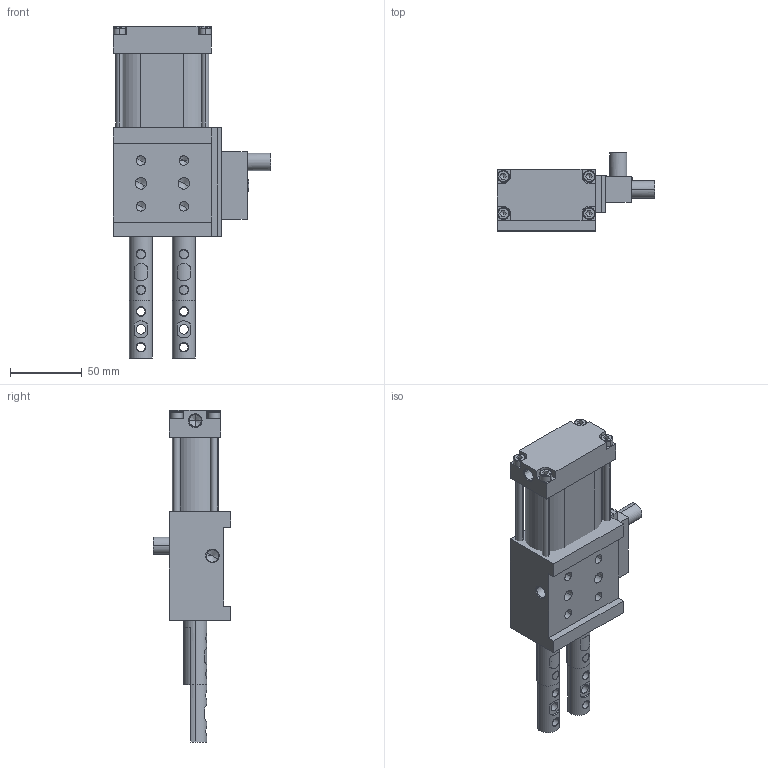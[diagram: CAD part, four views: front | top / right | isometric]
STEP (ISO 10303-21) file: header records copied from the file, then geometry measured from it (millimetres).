
FILE_DESCRIPTION(('CATIA V5 STEP Exchange'),'2;1');
FILE_NAME('C:\Dokumente und Einstellungen\huberm\Eigene Dateien\SZKD_40_5_A18_T12_TUENKERS.stp','2011-05-16T13:13:39+00:00',('none'),('none'),'CATIA Version 5 Release 19 SP 3 (IN-10)','CATIA V5 STEP AP203','none');
FILE_SCHEMA(('CONFIG_CONTROL_DESIGN'));
Length unit declared in the file: millimetre
Products named in the file (1): SZKD_40_5_A18_T12_TUENKERS
Bounding box: 110.1 x 54.5 x 232 mm (x, y, z)
Volume: 415382.7 mm3; surface area: 111067.9 mm2
Topology: 15 solids, 15 shells, 768 faces, 2168 edges, 1414 vertices
Faces by surface type: bspline 312, plane 267, cylinder 109, cone 62, torus 18
Entity records: 27391 total; most frequent: CARTESIAN_POINT 11094, ORIENTED_EDGE 4216, EDGE_CURVE 2108, DIRECTION 1957, VERTEX_POINT 1415, EDGE_LOOP 877, B_SPLINE_CURVE_WITH_KNOTS 808, AXIS2_PLACEMENT_3D 779
